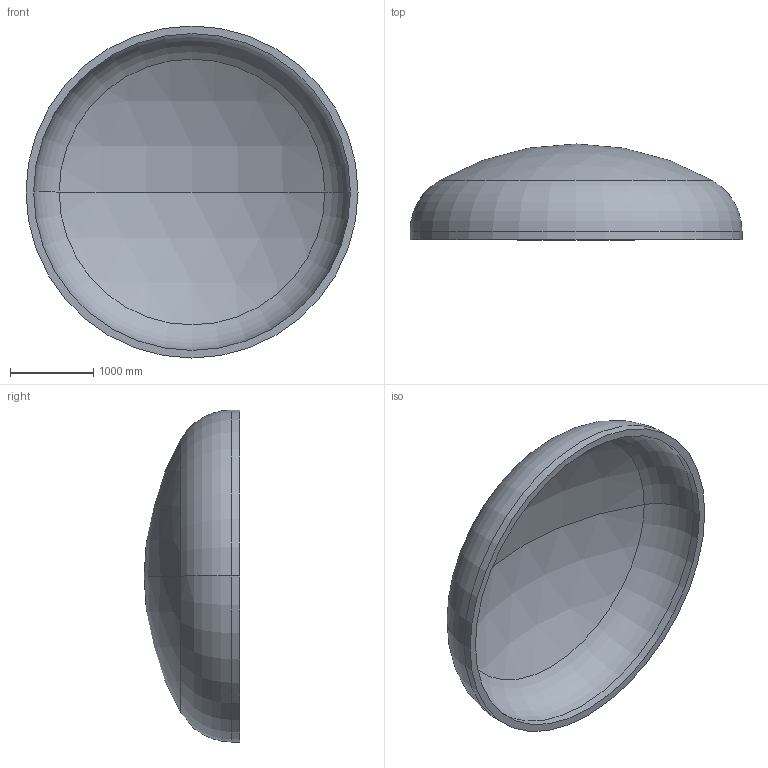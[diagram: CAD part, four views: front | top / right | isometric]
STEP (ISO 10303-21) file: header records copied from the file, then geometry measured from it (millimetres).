
FILE_DESCRIPTION (( 'STEP AP203' ), '1' );
FILE_NAME ('DIN 28013 Korbbogenform_-_Boden DIN 28013 - 4000 x 100 - I - s=92.step', '2016-07-01T22:45:34', ( '' ), ( '' ), 'SwSTEP 2.0', 'SolidWorks 2013', '' );
FILE_SCHEMA (( 'CONFIG_CONTROL_DESIGN' ));
Length unit declared in the file: millimetre
Products named in the file (1): DIN 28013 Korbbogenform_-_Boden DIN 28013 - 4000 x 100 - I - s=92
Bounding box: 4000 x 1153.61 x 4000 mm (x, y, z)
Volume: 1665985274.5 mm3; surface area: 37364301.1 mm2
Topology: 1 solids, 1 shells, 13 faces, 24 edges, 14 vertices
Faces by surface type: torus 4, cylinder 4, sphere 4, plane 1
Entity records: 407 total; most frequent: DIRECTION 72, CARTESIAN_POINT 52, ORIENTED_EDGE 48, AXIS2_PLACEMENT_3D 34, EDGE_CURVE 24, CIRCLE 20, VERTEX_POINT 14, EDGE_LOOP 14
